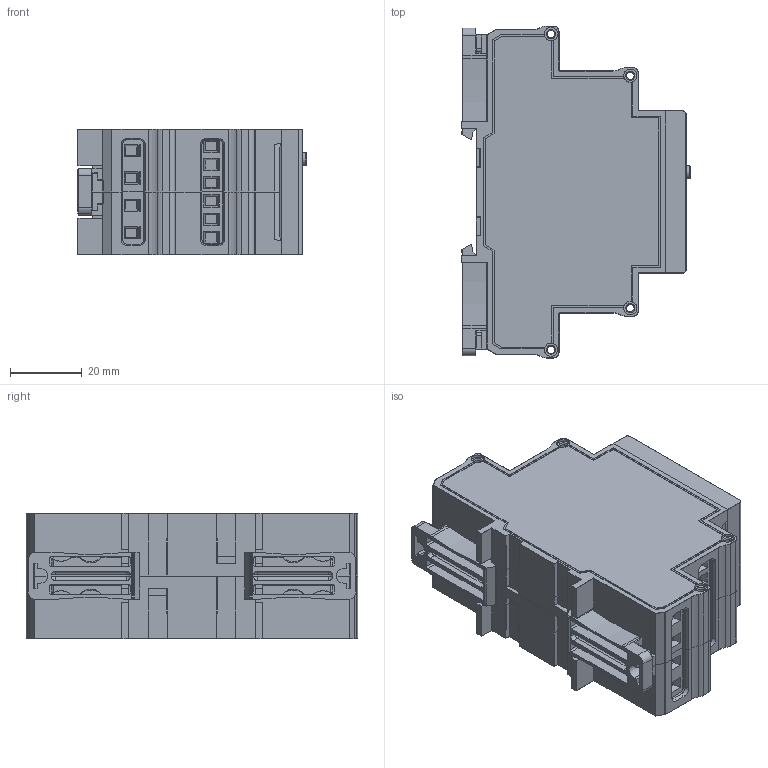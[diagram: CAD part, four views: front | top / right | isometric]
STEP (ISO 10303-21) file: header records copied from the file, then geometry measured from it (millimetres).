
FILE_DESCRIPTION(('STEP AP242'), '1');
FILE_NAME('栖闉罻_曶-08', '', ('UNSPECIFIED'), ('UNSPECIFIED'), 'C3D Converter', 'C3D Toolkit', '');
FILE_SCHEMA(('AP242_MANAGED_MODEL_BASED_3D_ENGINEERING_MIM_LF { 1 0 10303 442 1 1 4 }'));
Length unit declared in the file: millimetre
Products named in the file (15): Case_UC1-2sR-2024_SimpleModel_17mm; Case13-18-23mm_2step_Lock_v01a_Build20140909_1552; DG128-5.08_Configurable_5.08x3; Case_UC1-2sR-2025_Face_FR.FP.0000082
Assembly tree (24 placements, depth 2):
  (unnamed)
    Case_UC1-2sR-2024_SimpleModel_17mm  x2
    Case13-18-23mm_2step_Lock_v01a_Build20140909_1552  x2
    (unnamed)  x6
    DG128-5.08_Configurable_5.08x3  x2
    Case_UC1-2sR-2025_Face_FR.FP.0000082
    (unnamed)
    (unnamed)
    (unnamed)
    (unnamed)
    (unnamed)  x2
    (unnamed)  x2
    (unnamed)
    (unnamed)
    (unnamed)
Bounding box: 63.73 x 92.4 x 35 mm (x, y, z)
Volume: 42459.9 mm3; surface area: 56990.9 mm2
Topology: 63 solids, 63 shells, 5934 faces, 16703 edges, 10933 vertices
Faces by surface type: plane 4858, extrusion 484, cylinder 409, torus 99, cone 40, sphere 40, bspline 4
Full cylindrical faces by diameter (mm): 1.238 x6, 2.1 x10, 2.3 x10, 3.5 x1, 3.7 x8, 3.9 x18, 4.5 x1, 4.7 x1
Entity records: 163219 total; most frequent: CARTESIAN_POINT 27747, ORIENTED_EDGE 22668, DIRECTION 18516, EDGE_CURVE 11334, VECTOR 10338, LINE 9895, VERTEX_POINT 7499, EDGE_LOOP 4153
